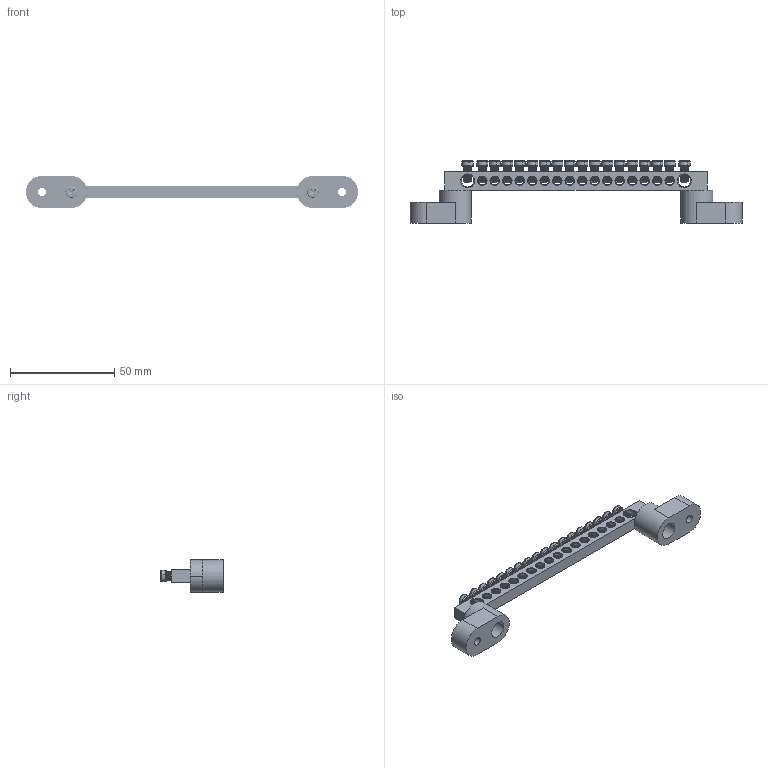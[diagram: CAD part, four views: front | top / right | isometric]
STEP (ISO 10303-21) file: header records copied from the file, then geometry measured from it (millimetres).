
FILE_DESCRIPTION (( 'STEP AP214' ), '1' );
FILE_NAME ('277890 OptiKit BB-T-N-S-18-6õ9-ñèíèé.STEP', '2020-02-06T12:33:09', ( '' ), ( '' ), 'SwSTEP 2.0', 'SolidWorks 2018', '' );
FILE_SCHEMA (( 'AUTOMOTIVE_DESIGN' ));
Length unit declared in the file: millimetre
Products named in the file (5): DIN èçîëÿòîð 2; Øèíà íóëåâàÿ ñ êðåïåæíûìè îòâåðñòèÿìè ïî êðàÿì 6õ9 18-2_1; Âèíò ì4; Øèíà 6õ9 18 2; 277890 OptiKit BB-T-N-S-18-6õ9-ñèíèé
Assembly tree (24 placements, depth 3):
  277890 OptiKit BB-T-N-S-18-6õ9-ñèíèé
    Øèíà íóëåâàÿ ñ êðåïåæíûìè îòâåðñòèÿìè ïî êðàÿì 6õ9 18-2_1
      Øèíà 6õ9 18 2
      Âèíò ì4  x18
    DIN èçîëÿòîð 2  x2
    Âèíò ì4  x2
Bounding box: 159.4 x 29.9 x 15.4 mm (x, y, z)
Volume: 16073.4 mm3; surface area: 14140 mm2
Topology: 23 solids, 23 shells, 1584 faces, 4396 edges, 2840 vertices
Faces by surface type: plane 558, cylinder 554, cone 252, torus 140, bspline 80
Entity records: 10991 total; most frequent: CARTESIAN_POINT 4371, DIRECTION 1264, ORIENTED_EDGE 1230, EDGE_CURVE 615, AXIS2_PLACEMENT_3D 508, VERTEX_POINT 384, EDGE_LOOP 321, VECTOR 248
